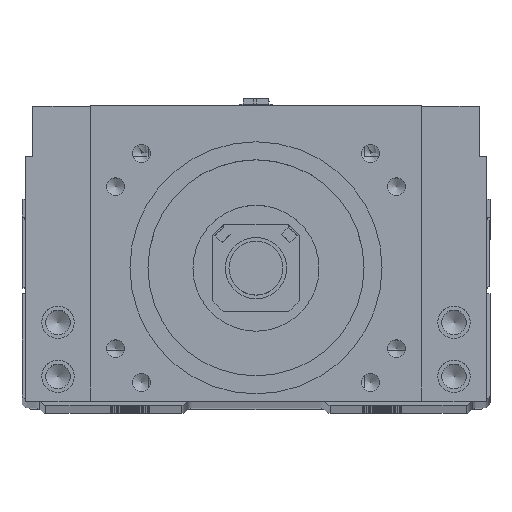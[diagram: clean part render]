
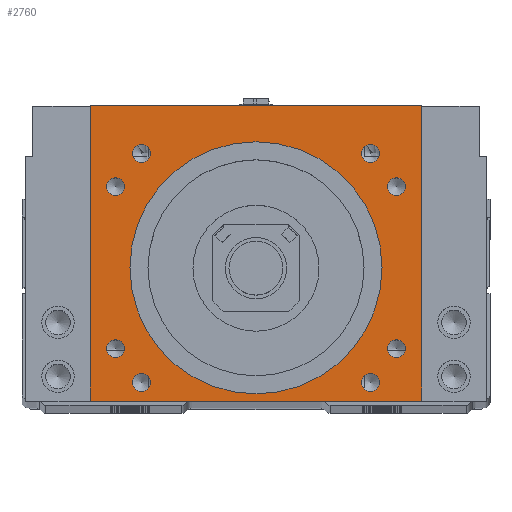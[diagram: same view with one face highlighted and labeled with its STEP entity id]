
A CAD part, top view. The second image highlights one B-rep face of the part: STEP entity #2760.
In plain terms, the highlighted planar face has unit normal (0, 0, 1).
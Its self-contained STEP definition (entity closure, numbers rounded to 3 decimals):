
#2760=ADVANCED_FACE('',(#6738,#6739,#6740,#6741,#6742,#6743,#6744,#6745,
#6746,#6747),#3552,.T.);
#3552=PLANE('',#17887);
#4483=LINE('',#27172,#5761);
#4484=LINE('',#27175,#5762);
#4485=LINE('',#27177,#5763);
#4486=LINE('',#27179,#5764);
#5761=VECTOR('',#20840,1.);
#5762=VECTOR('',#20841,1.);
#5763=VECTOR('',#20842,1.);
#5764=VECTOR('',#20843,1.);
#6738=FACE_BOUND('',#7936,.T.);
#6739=FACE_BOUND('',#7937,.T.);
#6740=FACE_BOUND('',#7938,.T.);
#6741=FACE_BOUND('',#7939,.T.);
#6742=FACE_BOUND('',#7940,.T.);
#6743=FACE_BOUND('',#7941,.T.);
#6744=FACE_BOUND('',#7942,.T.);
#6745=FACE_BOUND('',#7943,.T.);
#6746=FACE_BOUND('',#7944,.T.);
#6747=FACE_BOUND('',#7945,.T.);
#7936=EDGE_LOOP('',(#10828,#10829,#10830,#10831));
#7937=EDGE_LOOP('',(#10832));
#7938=EDGE_LOOP('',(#10833));
#7939=EDGE_LOOP('',(#10834));
#7940=EDGE_LOOP('',(#10835));
#7941=EDGE_LOOP('',(#10836));
#7942=EDGE_LOOP('',(#10837));
#7943=EDGE_LOOP('',(#10838));
#7944=EDGE_LOOP('',(#10839));
#7945=EDGE_LOOP('',(#10840));
#10828=ORIENTED_EDGE('',*,*,#15570,.T.);
#10829=ORIENTED_EDGE('',*,*,#15571,.T.);
#10830=ORIENTED_EDGE('',*,*,#15572,.T.);
#10831=ORIENTED_EDGE('',*,*,#15573,.T.);
#10832=ORIENTED_EDGE('',*,*,#15567,.F.);
#10833=ORIENTED_EDGE('',*,*,#15565,.T.);
#10834=ORIENTED_EDGE('',*,*,#15563,.T.);
#10835=ORIENTED_EDGE('',*,*,#15569,.F.);
#10836=ORIENTED_EDGE('',*,*,#15574,.F.);
#10837=ORIENTED_EDGE('',*,*,#15524,.T.);
#10838=ORIENTED_EDGE('',*,*,#15523,.T.);
#10839=ORIENTED_EDGE('',*,*,#15521,.T.);
#10840=ORIENTED_EDGE('',*,*,#15518,.T.);
#13653=VERTEX_POINT('',#27043);
#13657=VERTEX_POINT('',#27052);
#13660=VERTEX_POINT('',#27059);
#13661=VERTEX_POINT('',#27062);
#13693=VERTEX_POINT('',#27149);
#13696=VERTEX_POINT('',#27156);
#13699=VERTEX_POINT('',#27163);
#13702=VERTEX_POINT('',#27170);
#13703=VERTEX_POINT('',#27173);
#13704=VERTEX_POINT('',#27174);
#13705=VERTEX_POINT('',#27176);
#13706=VERTEX_POINT('',#27178);
#13707=VERTEX_POINT('',#27181);
#15518=EDGE_CURVE('',#13653,#13653,#16808,.T.);
#15521=EDGE_CURVE('',#13657,#13657,#16811,.T.);
#15523=EDGE_CURVE('',#13660,#13660,#16813,.T.);
#15524=EDGE_CURVE('',#13661,#13661,#16814,.T.);
#15563=EDGE_CURVE('',#13693,#13693,#16825,.T.);
#15565=EDGE_CURVE('',#13696,#13696,#16827,.T.);
#15567=EDGE_CURVE('',#13699,#13699,#16829,.T.);
#15569=EDGE_CURVE('',#13702,#13702,#16831,.T.);
#15570=EDGE_CURVE('',#13703,#13704,#4483,.T.);
#15571=EDGE_CURVE('',#13704,#13705,#4484,.T.);
#15572=EDGE_CURVE('',#13705,#13706,#4485,.T.);
#15573=EDGE_CURVE('',#13706,#13703,#4486,.T.);
#15574=EDGE_CURVE('',#13707,#13707,#16832,.T.);
#16808=CIRCLE('',#17834,2.5);
#16811=CIRCLE('',#17839,2.5);
#16813=CIRCLE('',#17843,2.5);
#16814=CIRCLE('',#17845,2.5);
#16825=CIRCLE('',#17872,2.5);
#16827=CIRCLE('',#17876,2.5);
#16829=CIRCLE('',#17880,2.5);
#16831=CIRCLE('',#17884,2.5);
#16832=CIRCLE('',#17886,35.015);
#17834=AXIS2_PLACEMENT_3D('',#27042,#20708,#20709);
#17839=AXIS2_PLACEMENT_3D('',#27051,#20718,#20719);
#17843=AXIS2_PLACEMENT_3D('',#27058,#20726,#20727);
#17845=AXIS2_PLACEMENT_3D('',#27061,#20730,#20731);
#17872=AXIS2_PLACEMENT_3D('',#27148,#20812,#20813);
#17876=AXIS2_PLACEMENT_3D('',#27155,#20820,#20821);
#17880=AXIS2_PLACEMENT_3D('',#27162,#20828,#20829);
#17884=AXIS2_PLACEMENT_3D('',#27169,#20836,#20837);
#17886=AXIS2_PLACEMENT_3D('',#27180,#20844,#20845);
#17887=AXIS2_PLACEMENT_3D('',#27182,#20846,#20847);
#20708=DIRECTION('',(0.,0.,-1.));
#20709=DIRECTION('',(1.,0.,0.));
#20718=DIRECTION('',(0.,0.,-1.));
#20719=DIRECTION('',(1.,0.,0.));
#20726=DIRECTION('',(0.,0.,-1.));
#20727=DIRECTION('',(1.,0.,0.));
#20730=DIRECTION('',(0.,0.,-1.));
#20731=DIRECTION('',(1.,0.,0.));
#20812=DIRECTION('',(0.,0.,-1.));
#20813=DIRECTION('',(1.,0.,0.));
#20820=DIRECTION('',(0.,0.,-1.));
#20821=DIRECTION('',(1.,0.,0.));
#20828=DIRECTION('',(0.,0.,1.));
#20829=DIRECTION('',(-1.,0.,0.));
#20836=DIRECTION('',(0.,0.,1.));
#20837=DIRECTION('',(-1.,0.,0.));
#20840=DIRECTION('',(0.,1.,0.));
#20841=DIRECTION('',(-1.,0.,0.));
#20842=DIRECTION('',(0.,-1.,0.));
#20843=DIRECTION('',(1.,0.,0.));
#20844=DIRECTION('',(0.,0.,1.));
#20845=DIRECTION('',(1.,0.,0.));
#20846=DIRECTION('',(0.,0.,1.));
#20847=DIRECTION('',(-1.,0.,0.));
#27042=CARTESIAN_POINT('',(31.82,69.82,100.));
#27043=CARTESIAN_POINT('',(34.32,69.82,100.));
#27051=CARTESIAN_POINT('',(31.82,6.18,100.));
#27052=CARTESIAN_POINT('',(34.32,6.18,100.));
#27058=CARTESIAN_POINT('',(-31.82,6.18,100.));
#27059=CARTESIAN_POINT('',(-29.32,6.18,100.));
#27061=CARTESIAN_POINT('',(-31.82,69.82,100.));
#27062=CARTESIAN_POINT('',(-29.32,69.82,100.));
#27148=CARTESIAN_POINT('',(38.971,15.5,100.));
#27149=CARTESIAN_POINT('',(41.471,15.5,100.));
#27155=CARTESIAN_POINT('',(38.971,60.5,100.));
#27156=CARTESIAN_POINT('',(41.471,60.5,100.));
#27162=CARTESIAN_POINT('',(-38.971,15.5,100.));
#27163=CARTESIAN_POINT('',(-41.471,15.5,100.));
#27169=CARTESIAN_POINT('',(-38.971,60.5,100.));
#27170=CARTESIAN_POINT('',(-41.471,60.5,100.));
#27172=CARTESIAN_POINT('',(46.,38.,100.));
#27173=CARTESIAN_POINT('',(46.,1.,100.));
#27174=CARTESIAN_POINT('',(46.,83.,100.));
#27175=CARTESIAN_POINT('',(0.,83.,100.));
#27176=CARTESIAN_POINT('',(-46.,83.,100.));
#27177=CARTESIAN_POINT('',(-46.,38.,100.));
#27178=CARTESIAN_POINT('',(-46.,1.,100.));
#27179=CARTESIAN_POINT('',(0.,1.,100.));
#27180=CARTESIAN_POINT('',(0.,38.,100.));
#27181=CARTESIAN_POINT('',(35.015,38.,100.));
#27182=CARTESIAN_POINT('',(0.,38.,100.));
